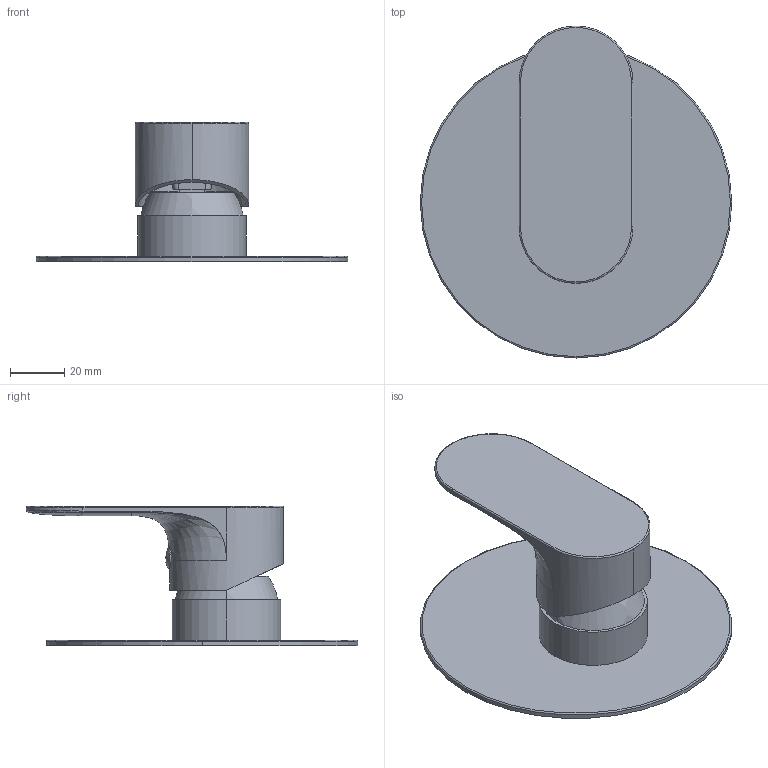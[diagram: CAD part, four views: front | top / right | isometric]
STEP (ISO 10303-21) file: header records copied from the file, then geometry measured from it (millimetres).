
FILE_DESCRIPTION((''),'2;1');
FILE_NAME('64416_SW0001','2025-05-22T13:13:40',('carloff'),(''),'CREO PARAMETRIC BY PTC INC, 2022014','CREO PARAMETRIC BY PTC INC, 2022014','');
FILE_SCHEMA(('CONFIG_CONTROL_DESIGN'));
Length unit declared in the file: millimetre
Products named in the file (1): 64416_SW0001
Bounding box: 115 x 122.5 x 51.5 mm (x, y, z)
Volume: 72212 mm3; surface area: 40238.7 mm2
Topology: 1 solids, 1 shells, 184 faces, 485 edges, 304 vertices
Faces by surface type: plane 73, cylinder 49, bspline 27, cone 15, torus 14, sphere 4, extrusion 2
Entity records: 13439 total; most frequent: CARTESIAN_POINT 9139, ORIENTED_EDGE 966, DIRECTION 774, EDGE_CURVE 483, VERTEX_POINT 304, AXIS2_PLACEMENT_3D 276, VECTOR 222, LINE 220
